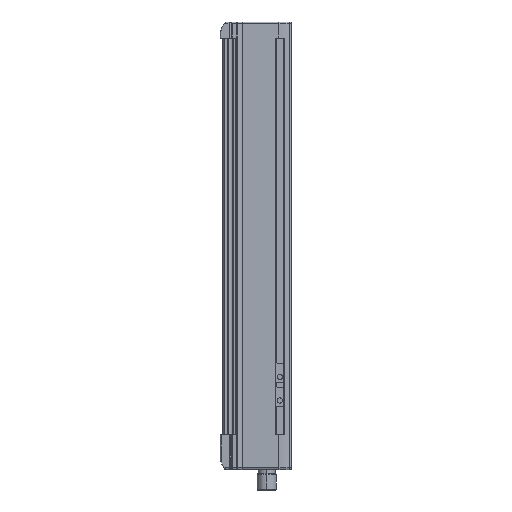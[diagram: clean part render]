
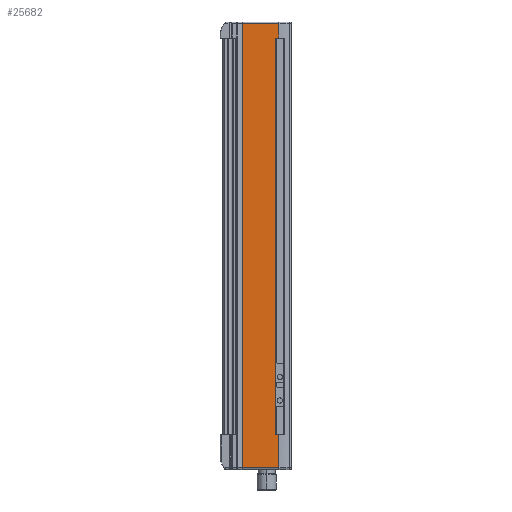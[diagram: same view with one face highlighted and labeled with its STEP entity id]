
A CAD part, left-side view. The second image highlights one B-rep face of the part: STEP entity #25682.
In plain terms, the highlighted planar face has unit normal (-1, 0, 0).
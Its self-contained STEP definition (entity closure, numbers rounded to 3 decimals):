
#1196 = ORIENTED_EDGE ( 'NONE', *, *, #7455, .T. ) ;
#1588 = CARTESIAN_POINT ( 'NONE',  ( -22.5, 0., 250. ) ) ;
#1875 = VECTOR ( 'NONE', #11757, 1000. ) ;
#2658 = CARTESIAN_POINT ( 'NONE',  ( -22.5, 8.8, 259.15 ) ) ;
#2664 = DIRECTION ( 'NONE',  ( 0., -1., 0. ) ) ;
#2694 = CARTESIAN_POINT ( 'NONE',  ( -22.5, 8.8, -21. ) ) ;
#3000 = VERTEX_POINT ( 'NONE', #14951 ) ;
#3278 = EDGE_CURVE ( 'NONE', #24829, #3000, #6924, .T. ) ;
#3352 = DIRECTION ( 'NONE',  ( 0., 0., 1. ) ) ;
#3721 = VECTOR ( 'NONE', #19605, 1000. ) ;
#4355 = CARTESIAN_POINT ( 'NONE',  ( -22.5, 8.8, 259.15 ) ) ;
#5020 = VERTEX_POINT ( 'NONE', #16791 ) ;
#5185 = VERTEX_POINT ( 'NONE', #28952 ) ;
#5594 = VERTEX_POINT ( 'NONE', #2658 ) ;
#6107 = LINE ( 'NONE', #10988, #3721 ) ;
#6504 = VECTOR ( 'NONE', #22603, 1000. ) ;
#6560 = EDGE_CURVE ( 'NONE', #14270, #27456, #11253, .T. ) ;
#6924 = LINE ( 'NONE', #11671, #25257 ) ;
#7325 = VECTOR ( 'NONE', #3352, 1000. ) ;
#7429 = CARTESIAN_POINT ( 'NONE',  ( -22.5, -14.5, -21. ) ) ;
#7455 = EDGE_CURVE ( 'NONE', #5020, #11542, #13064, .T. ) ;
#7492 = LINE ( 'NONE', #23830, #7325 ) ;
#7750 = ORIENTED_EDGE ( 'NONE', *, *, #16289, .T. ) ;
#7885 = EDGE_CURVE ( 'NONE', #5185, #5594, #24672, .T. ) ;
#8314 = LINE ( 'NONE', #10687, #26813 ) ;
#8959 = EDGE_CURVE ( 'NONE', #5185, #24829, #6107, .T. ) ;
#10002 = FACE_OUTER_BOUND ( 'NONE', #17846, .T. ) ;
#10447 = PLANE ( 'NONE',  #18520 ) ;
#10687 = CARTESIAN_POINT ( 'NONE',  ( -22.5, 8.8, 250. ) ) ;
#10988 = CARTESIAN_POINT ( 'NONE',  ( -22.5, -14.5, 272. ) ) ;
#11253 = LINE ( 'NONE', #20302, #19707 ) ;
#11542 = VERTEX_POINT ( 'NONE', #25711 ) ;
#11671 = CARTESIAN_POINT ( 'NONE',  ( -22.5, 0., 250. ) ) ;
#11757 = DIRECTION ( 'NONE',  ( 0., 0., 1. ) ) ;
#12921 = CARTESIAN_POINT ( 'NONE',  ( -22.5, 0., 0. ) ) ;
#13064 = LINE ( 'NONE', #12921, #25897 ) ;
#13747 = DIRECTION ( 'NONE',  ( 0., 1., 0. ) ) ;
#14270 = VERTEX_POINT ( 'NONE', #2694 ) ;
#14951 = CARTESIAN_POINT ( 'NONE',  ( -22.5, -12., 250. ) ) ;
#15048 = DIRECTION ( 'NONE',  ( -1., 0., 0. ) ) ;
#15189 = ORIENTED_EDGE ( 'NONE', *, *, #8959, .F. ) ;
#16289 = EDGE_CURVE ( 'NONE', #11542, #3000, #7492, .T. ) ;
#16791 = CARTESIAN_POINT ( 'NONE',  ( -22.5, -14.5, 0. ) ) ;
#17230 = DIRECTION ( 'NONE',  ( 0., 1., 0. ) ) ;
#17693 = EDGE_CURVE ( 'NONE', #5594, #14270, #8314, .T. ) ;
#17701 = CARTESIAN_POINT ( 'NONE',  ( -22.5, -14.5, 250. ) ) ;
#17846 = EDGE_LOOP ( 'NONE', ( #15189, #21570, #18614, #27082, #27420, #1196, #7750, #19916 ) ) ;
#18520 = AXIS2_PLACEMENT_3D ( 'NONE', #1588, #15048, #19500 ) ;
#18614 = ORIENTED_EDGE ( 'NONE', *, *, #17693, .T. ) ;
#18861 = LINE ( 'NONE', #23620, #1875 ) ;
#19500 = DIRECTION ( 'NONE',  ( 0., 0., 1. ) ) ;
#19605 = DIRECTION ( 'NONE',  ( 0., 0., -1. ) ) ;
#19707 = VECTOR ( 'NONE', #2664, 1000. ) ;
#19916 = ORIENTED_EDGE ( 'NONE', *, *, #3278, .F. ) ;
#20302 = CARTESIAN_POINT ( 'NONE',  ( -22.5, -14.5, -21. ) ) ;
#21570 = ORIENTED_EDGE ( 'NONE', *, *, #7885, .T. ) ;
#22603 = DIRECTION ( 'NONE',  ( 0., 1., 0. ) ) ;
#23620 = CARTESIAN_POINT ( 'NONE',  ( -22.5, -14.5, -22. ) ) ;
#23830 = CARTESIAN_POINT ( 'NONE',  ( -22.5, -12., 250. ) ) ;
#23833 = EDGE_CURVE ( 'NONE', #27456, #5020, #18861, .T. ) ;
#24672 = LINE ( 'NONE', #4355, #6504 ) ;
#24829 = VERTEX_POINT ( 'NONE', #17701 ) ;
#25257 = VECTOR ( 'NONE', #13747, 1000. ) ;
#25682 = ADVANCED_FACE ( 'NONE', ( #10002 ), #10447, .T. ) ;
#25711 = CARTESIAN_POINT ( 'NONE',  ( -22.5, -12., 0. ) ) ;
#25897 = VECTOR ( 'NONE', #17230, 1000. ) ;
#26813 = VECTOR ( 'NONE', #28801, 1000. ) ;
#27082 = ORIENTED_EDGE ( 'NONE', *, *, #6560, .T. ) ;
#27420 = ORIENTED_EDGE ( 'NONE', *, *, #23833, .T. ) ;
#27456 = VERTEX_POINT ( 'NONE', #7429 ) ;
#28801 = DIRECTION ( 'NONE',  ( 0., 0., -1. ) ) ;
#28952 = CARTESIAN_POINT ( 'NONE',  ( -22.5, -14.5, 259.15 ) ) ;
